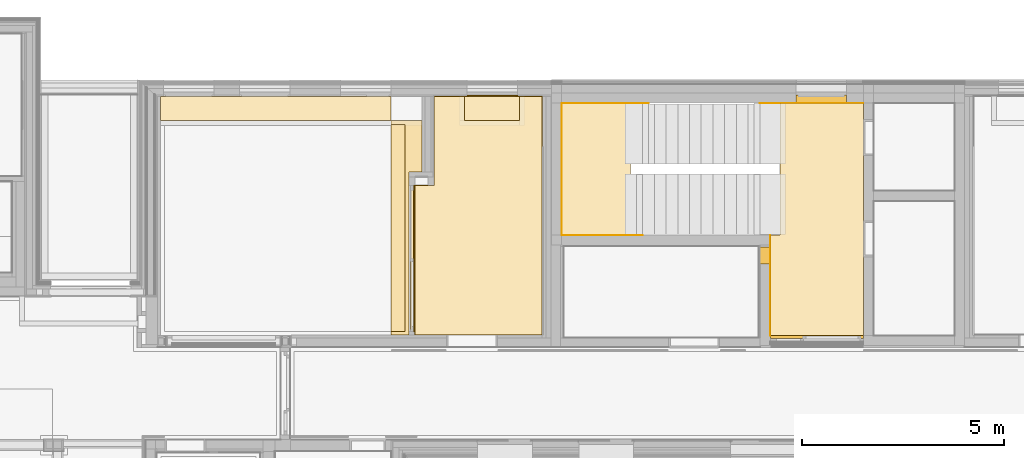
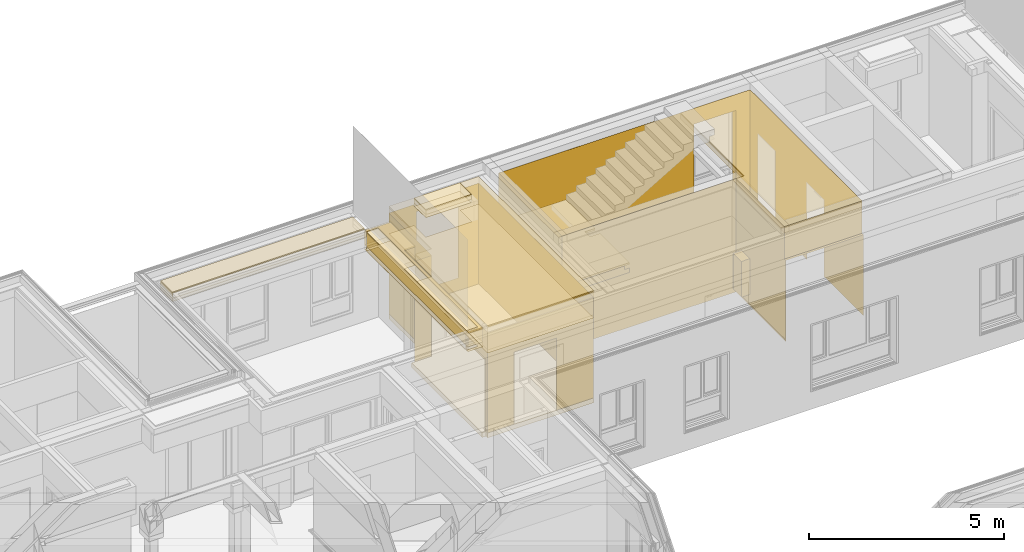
# One storey, part 180 of 222: 27 coverings.
"""IFC4 building model written with IfcOpenShell, lengths in metres."""

from ifc_helpers import new_model, entity, si_unit, converted_unit, derived_unit, frame, frame_2d, origin, origin_with_axes, place, context, subcontext, project, spatial, polyline, rectangle, outline, extrude, material, layer, layer_set, layer_usage, element, save


model = new_model("IFC4")

# Units and contexts
model_context = context("Model", 3, precision=1e-05, world=origin())
body_context = subcontext(model_context, "Body", "Model", "MODEL_VIEW")
ifc_project = project(units=[si_unit("LENGTHUNIT", "METRE"), si_unit("AREAUNIT", "SQUARE_METRE"), si_unit("VOLUMEUNIT", "CUBIC_METRE"), si_unit("MASSUNIT", "GRAM", prefix="KILO"), converted_unit("PLANEANGLEUNIT", "DEGREE", entity("IfcPlaneAngleMeasure", 0.0174532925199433), si_unit("PLANEANGLEUNIT", "RADIAN"), dimensions=[0, 0, 0, 0, 0, 0, 0]), derived_unit("THERMALTRANSMITTANCEUNIT", [(si_unit("POWERUNIT", "WATT"), 1), (si_unit("THERMODYNAMICTEMPERATUREUNIT", "KELVIN"), -1), (si_unit("LENGTHUNIT", "METRE"), -2)]), derived_unit("VOLUMETRICFLOWRATEUNIT", [(si_unit("LENGTHUNIT", "METRE"), 3), (converted_unit("TIMEUNIT", "hour", entity("IfcTimeMeasure", 3600.0), si_unit("TIMEUNIT", "SECOND"), dimensions=[0, 0, 1, 0, 0, 0, 0]), -1), (si_unit("LENGTHUNIT", "METRE"), -1)])], contexts=[model_context])

# Site, building, storey, space
site_placement = place(None, origin())
site = spatial("IfcSite", under=ifc_project, at=site_placement, Name="Psychiatrie Neubau Wunstorf", CompositionType="ELEMENT")
building_placement = place(site_placement, origin())
building = spatial("IfcBuilding", under=site, at=building_placement, Name="Neubau H2 Stationsgebäude", CompositionType="ELEMENT")
storey_placement = place(building_placement, frame((0.0, 0.0, 3.6)))
storey = spatial("IfcBuildingStorey", under=building, at=storey_placement, Name="H2 Ebene +1", CompositionType="ELEMENT", Elevation=3.6)
space_1_placement = place(storey_placement, frame((48.15, 23.1549914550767, 0.0)))
space_1 = spatial("IfcSpace", under=storey, at=space_1_placement, Name="WUN-H2-E01-T03", CompositionType="ELEMENT")

# Coverings
ifc_material_1 = material(Name="03")
ifc_layer_1 = layer(ifc_material_1, 0.001)
ifc_layer_set_1 = layer_set([ifc_layer_1])
ifc_layer_usage_1 = layer_usage(ifc_layer_set_1, "AXIS3", "POSITIVE", 0.0)
covering_1_placement = place(space_1_placement, frame((0.0, -0.0705, 0.0)))
element("IfcCovering", 1, at=covering_1_placement, inside=space_1, material=ifc_layer_usage_1, Name="Sichtbetonklasse SB3", PredefinedType="CLADDING", context=body_context, shape_type="SweptSolid", body=[
    extrude(outline(polyline([(2.145, 0.25), (2.145, 0.0), (0.15, 0.0), (0.15, 0.11), (0.0, 0.11), (0.0, 0.25), (2.145, 0.25)])), frame((2.145, 5.81050823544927, 1.965), z_axis=(9.04507573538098e-12, -1.0, 2.71352272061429e-12), x_axis=(-1.0, -9.04507573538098e-12, 0.0)), (0.0, 0.0, 1.0), 0.001),
    extrude(rectangle(XDim=0.049999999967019, YDim=2.55535335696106, at=frame_2d((1.27767667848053, 0.0250000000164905), x_axis=(0.0, 1.0))), frame((7.45000000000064, 5.81050732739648, 0.049999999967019), z_axis=(7.10690759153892e-07, -0.999999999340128, -3.63213203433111e-05), x_axis=(-0.999999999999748, -7.10690759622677e-07, 0.0)), (0.0, 0.0, 1.0), 0.001),
    extrude(rectangle(XDim=0.25, YDim=3.25999969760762, at=frame_2d((-1.62999984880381, -0.125), x_axis=(0.0, -1.0))), frame((0.0, 2.55050853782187, 1.715), z_axis=(1.0, 0.0, 0.0), x_axis=(0.0, -1.0, 0.0)), (0.0, 0.0, 1.0), 0.001),
    extrude(outline(polyline([(0.0, 0.25), (1.995, 0.25), (1.995, 0.11), (1.845, 0.11), (1.845, 0.0), (0.0, 0.0), (0.0, 0.25)])), frame((0.0, 2.55050853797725, 1.965), z_axis=(-2.27191305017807e-11, 1.0, -1.18879285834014e-09), x_axis=(1.0, 2.27191305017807e-11, 0.0)), (0.0, 0.0, 1.0), 0.001),
    extrude(rectangle(XDim=0.0499999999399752, YDim=2.47999999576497, at=frame_2d((1.23999999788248, 0.0250000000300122), x_axis=(0.0, 1.0))), frame((5.15000122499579, 2.55050853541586, 0.0499999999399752), z_axis=(0.99999999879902, -9.87899820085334e-07, -4.89998311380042e-05), x_axis=(-9.878998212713e-07, -0.999999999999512, 0.0)), (0.0, 0.0, 1.0), 0.001),
])
ifc_material_2 = material(Name="47")
ifc_layer_2 = layer(ifc_material_2, 0.001)
ifc_layer_set_2 = layer_set([ifc_layer_2])
ifc_layer_usage_2 = layer_usage(ifc_layer_set_2, "AXIS3", "POSITIVE", 0.0)
covering_2_placement = place(space_1_placement, frame((0.0, -0.0705, 0.0)))
element("IfcCovering", 2, at=covering_2_placement, inside=space_1, material=ifc_layer_usage_2, Name="Sichtbetonklasse SB3", PredefinedType="CLADDING", context=body_context, shape_type="SweptSolid", body=[
    extrude(rectangle(XDim=1.02, YDim=2.30000489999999, at=frame_2d((-1.15000245, -0.51), x_axis=(0.0, -1.0))), frame((7.45000000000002, 0.0705, 2.53), z_axis=(0.0, 1.0, 0.0), x_axis=(1.0, 0.0, 0.0)), (0.0, 0.0, 1.0), 0.001),
    extrude(outline(polyline([(5.74000823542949, 3.55), (5.74000823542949, 0.0), (0.0, 0.0), (0.0, 3.55), (1.94500838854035, 3.55), (1.94500838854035, 1.14), (2.83000838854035, 1.14), (2.83000838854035, 3.55), (4.44500823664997, 3.55), (4.44500823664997, 1.14), (5.33000823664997, 1.14), (5.33000823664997, 3.55), (5.74000823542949, 3.55)])), frame((7.45000000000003, 0.0705, 3.55), z_axis=(-1.0, -4.03495209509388e-15, 5.41978774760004e-17), x_axis=(-4.03495209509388e-15, 1.0, 0.0)), (0.0, 0.0, 1.0), 0.001),
    extrude(outline(polyline([(7.45, 3.55), (7.45, 0.0), (0.0, 0.0), (0.0, 3.55), (7.45, 3.55)]), holes=[polyline([(1.66249999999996, 3.0), (0.412499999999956, 3.0), (0.412499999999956, 0.5), (1.66249999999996, 0.5), (1.66249999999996, 3.0)])]), frame((7.45, 5.80950823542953, 3.55), z_axis=(1.44965384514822e-15, -1.0, 0.0), x_axis=(-1.0, -1.44965384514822e-15, 0.0)), (0.0, 0.0, 1.0), 0.001),
    extrude(rectangle(XDim=0.049999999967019, YDim=2.55535335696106, at=frame_2d((1.27767667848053, 0.0250000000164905), x_axis=(0.0, 1.0))), frame((7.45000000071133, 5.80950732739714, 0.0499999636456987), z_axis=(7.10690759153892e-07, -0.999999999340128, -3.63213203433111e-05), x_axis=(-0.999999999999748, -7.10690759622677e-07, 0.0)), (0.0, 0.0, 1.0), 0.001),
    extrude(rectangle(XDim=3.55, YDim=3.25999969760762, at=frame_2d((-1.62999984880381, -1.775), x_axis=(0.0, -1.0))), frame((0.001, 2.55050853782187, 0.0), z_axis=(1.0, 0.0, 0.0), x_axis=(0.0, -1.0, 0.0)), (0.0, 0.0, 1.0), 0.001),
    extrude(rectangle(XDim=3.55, YDim=5.15000000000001, at=frame_2d((-2.57500000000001, -1.775), x_axis=(0.0, -1.0))), frame((5.15000000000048, 2.55150853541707, 0.0), z_axis=(4.66951886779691e-10, 1.0, 0.0), x_axis=(1.0, -4.66951886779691e-10, 0.0)), (0.0, 0.0, 1.0), 0.001),
    extrude(outline(polyline([(2.48000853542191, 0.0), (0.0, 0.0), (0.0, 3.55), (2.48000853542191, 3.55), (2.48000853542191, 0.0)]), holes=[polyline([(0.709449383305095, 3.2), (0.289449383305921, 3.2), (0.289449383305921, 2.08), (0.709449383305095, 2.08), (0.709449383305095, 3.2)])]), frame((5.15100050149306, 2.55050853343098, 3.55), z_axis=(0.99999999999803, -1.98509805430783e-06, 2.3486988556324e-23), x_axis=(-1.98509805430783e-06, -0.99999999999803, 0.0)), (0.0, 0.0, 1.0), 0.001),
    extrude(outline(polyline([(0.0, 0.0), (0.0, 0.0500000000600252), (2.4800085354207, 0.0500000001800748), (2.47999999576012, 0.0), (0.0, 0.0)])), frame((5.15100122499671, 2.55050853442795, 0.0499999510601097), z_axis=(0.999999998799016, -9.87901521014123e-07, -4.8999915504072e-05), x_axis=(-9.87901522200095e-07, -0.999999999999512, 0.0)), (0.0, 0.0, 1.0), 0.001),
    extrude(rectangle(XDim=2.53, YDim=0.0705, at=frame_2d((-0.03525, -1.265), x_axis=(0.0, -1.0))), frame((7.44999510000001, 0.0705, 0.0), z_axis=(-1.0, 0.0, 0.0), x_axis=(0.0, 1.0, 0.0)), (0.0, 0.0, 1.0), 0.001),
    extrude(rectangle(XDim=2.2999951, YDim=0.0705, at=frame_2d((1.14999755, -0.03525), x_axis=(1.0, 0.0))), frame((5.15000000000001, 0.0, 2.53), z_axis=(0.0, 0.0, -1.0), x_axis=(1.0, 0.0, 0.0)), (0.0, 0.0, 1.0), 0.001),
    extrude(rectangle(XDim=2.53, YDim=0.0705, at=frame_2d((-0.03525, -1.265), x_axis=(0.0, -1.0))), frame((5.15000000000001, 0.0, 0.0), z_axis=(1.0, 0.0, 0.0), x_axis=(0.0, -1.0, 0.0)), (0.0, 0.0, 1.0), 0.001),
    extrude(rectangle(XDim=0.194999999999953, YDim=2.5, at=frame_2d((0.0974999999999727, -1.25), x_axis=(1.0, 0.0))), frame((7.03650000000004, 5.81050823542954, 0.55), z_axis=(-1.0, 0.0, 0.0), x_axis=(0.0, 1.0, 0.0)), (0.0, 0.0, 1.0), 0.001),
    extrude(rectangle(XDim=1.25, YDim=0.194999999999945, at=frame_2d((0.625, -0.0974999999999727), x_axis=(1.0, 0.0))), frame((5.78750000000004, 5.81050823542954, 3.049), z_axis=(0.0, 0.0, -1.0), x_axis=(1.0, 0.0, 0.0)), (0.0, 0.0, 1.0), 0.001),
    extrude(rectangle(XDim=2.5, YDim=0.194999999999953, at=frame_2d((-0.0974999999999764, -1.25), x_axis=(0.0, -1.0))), frame((5.78850000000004, 5.81050823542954, 0.55), z_axis=(1.0, 1.8656301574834e-14, -1.4551915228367e-15), x_axis=(1.8656301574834e-14, -1.0, 0.0)), (0.0, 0.0, 1.0), 0.001),
    extrude(rectangle(XDim=1.12, YDim=0.42, at=frame_2d((-0.21, -0.56), x_axis=(0.0, -1.0))), frame((4.90100000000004, 1.84105915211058, 0.35), z_axis=(1.0, 0.0, 0.0), x_axis=(0.0, -1.0, 0.0)), (0.0, 0.0, 1.0), 0.001),
    extrude(rectangle(XDim=0.42, YDim=0.25, at=frame_2d((0.125, 0.21), x_axis=(0.0, 1.0))), frame((4.90000000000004, 2.26105915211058, 1.469), z_axis=(0.0, 0.0, -1.0), x_axis=(1.0, 0.0, 0.0)), (0.0, 0.0, 1.0), 0.001),
    extrude(rectangle(XDim=1.12, YDim=0.25, at=frame_2d((-0.125, -0.56), x_axis=(0.0, -1.0))), frame((4.90000000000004, 2.26005915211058, 0.35), z_axis=(0.0, -1.0, 0.0), x_axis=(-1.0, 0.0, 0.0)), (0.0, 0.0, 1.0), 0.001),
    extrude(rectangle(XDim=1.12, YDim=0.25, at=frame_2d((-0.125, -0.56), x_axis=(0.0, -1.0))), frame((5.15000000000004, 1.84205915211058, 0.35), z_axis=(0.0, 1.0, 0.0), x_axis=(1.0, 0.0, 0.0)), (0.0, 0.0, 1.0), 0.001),
])
ifc_material_3 = material()
ifc_layer_3 = layer(ifc_material_3, 0.036)
ifc_layer_set_3 = layer_set([ifc_layer_3])
ifc_layer_usage_3 = layer_usage(ifc_layer_set_3, "AXIS3", "POSITIVE", 0.0)
covering_3_placement = place(space_1_placement, frame((5.14999510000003, 0.0, 3.55)))
element("IfcCovering", 3, at=covering_3_placement, inside=space_1, material=ifc_layer_usage_3, Name="Gipsfaserplatten 2-lagig (BSK)", PredefinedType="CEILING", context=body_context, shape_type="SweptSolid", body=[
    extrude(outline(polyline([(2.30000489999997, 0.0), (2.30000489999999, 5.74000823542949), (0.0, 5.74000823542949), (4.89999998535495e-06, 3.25999969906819), (0.2400049, 3.25999969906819), (0.2400049, 0.0), (2.30000489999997, 0.0)])), frame((0.0, 5.74000823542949, 0.0), z_axis=(0.0, 0.0, -1.0), x_axis=(1.0, 0.0, 0.0)), (0.0, 0.0, 1.0), 0.036),
])
ifc_material_4 = material(Name="Installationshöhe")
ifc_layer_4 = layer(ifc_material_4, 0.164)
ifc_layer_set_4 = layer_set([ifc_layer_4])
ifc_layer_usage_4 = layer_usage(ifc_layer_set_4, "AXIS3", "POSITIVE", 0.0)
covering_4_placement = place(space_1_placement, frame((5.14999510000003, 0.0, 3.514)))
element("IfcCovering", 4, at=covering_4_placement, inside=space_1, material=ifc_layer_usage_4, Name="Gipsfaserplatten 2-lagig (BSK)", PredefinedType="CEILING", context=body_context, shape_type="SweptSolid", body=[
    extrude(outline(polyline([(2.30000489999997, 0.0), (2.30000489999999, 5.74000823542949), (0.0, 5.74000823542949), (4.89999998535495e-06, 3.25999969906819), (0.2400049, 3.25999969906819), (0.2400049, 0.0), (2.30000489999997, 0.0)])), frame((0.0, 5.74000823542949, 0.0), z_axis=(0.0, 0.0, -1.0), x_axis=(1.0, 0.0, 0.0)), (0.0, 0.0, 1.0), 0.164),
])
ifc_material_5 = material(Name="Fl12")
ifc_layer_5 = layer(ifc_material_5, 0.06)
ifc_layer_set_5 = layer_set([ifc_layer_5])
ifc_layer_usage_5 = layer_usage(ifc_layer_set_5, "AXIS3", "POSITIVE", 0.0)
covering_5_placement = place(space_1_placement, frame((0.0, 2.48000853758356, 1.965)))
element("IfcCovering", 5, at=covering_5_placement, inside=space_1, material=ifc_layer_usage_5, Name="Fliesen Großformat", PredefinedType="FLOORING", context=body_context, shape_type="SweptSolid", body=[
    extrude(outline(polyline([(0.0, 0.0), (1.995, 0.0), (1.995, 1.50509006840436), (1.7, 1.50509006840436), (1.7, 1.75999969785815), (1.995, 1.75999969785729), (1.995, 3.25999969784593), (0.0, 3.25999969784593), (0.0, 0.0)])), origin_with_axes(), (0.0, 0.0, 1.0), 0.06),
])

# Space
space_2_placement = place(storey_placement, frame((44.525, 23.1709999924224, 0.0)))
space_2 = spatial("IfcSpace", under=storey, at=space_2_placement, Name="WUN-H2-E01-048", CompositionType="ELEMENT")

# Coverings
ifc_material_6 = material()
ifc_layer_6 = layer(ifc_material_6, 0.036)
ifc_layer_set_6 = layer_set([ifc_layer_6])
ifc_layer_usage_6 = layer_usage(ifc_layer_set_6, "AXIS3", "POSITIVE", 0.0)
covering_6_placement = place(space_2_placement, frame((0.0, 0.0, 3.51)))
element("IfcCovering", 6, at=covering_6_placement, inside=space_2, material=ifc_layer_usage_6, Name="Gipsfaserplatten 2-lagig (BSK)", PredefinedType="CEILING", context=body_context, shape_type="SweptSolid", body=[
    extrude(outline(polyline([(3.13899999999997, 5.89299992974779), (0.0, 5.89299992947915), (0.0, 2.20000023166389), (0.475000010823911, 2.20000023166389), (0.475000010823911, 1.49044833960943e-07), (1.22499978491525, 1.49044833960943e-07), (1.22499985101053, 0.600000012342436), (2.57799982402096, 0.600000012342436), (2.57799975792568, 0.0), (3.139, 0.0), (3.13899999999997, 5.89299992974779)])), frame((0.0, 5.89299992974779, 0.0), z_axis=(0.0, 0.0, -1.0), x_axis=(1.0, 0.0, 0.0)), (0.0, 0.0, 1.0), 0.036),
])
ifc_material_7 = material(Name="Installationshöhe")
ifc_layer_7 = layer(ifc_material_7, 0.724)
ifc_layer_set_7 = layer_set([ifc_layer_7])
ifc_layer_usage_7 = layer_usage(ifc_layer_set_7, "AXIS3", "POSITIVE", 0.0)
covering_7_placement = place(space_2_placement, frame((0.0, 0.0, 3.474)))
element("IfcCovering", 7, at=covering_7_placement, inside=space_2, material=ifc_layer_usage_7, Name="Gipsfaserplatten 2-lagig (BSK)", PredefinedType="CEILING", context=body_context, shape_type="SweptSolid", body=[
    extrude(outline(polyline([(3.13899999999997, 5.89299992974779), (0.0, 5.89299992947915), (0.0, 2.20000023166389), (0.475000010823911, 2.20000023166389), (0.475000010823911, 1.49044833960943e-07), (1.22499978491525, 1.49044833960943e-07), (1.22499985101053, 0.600000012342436), (2.57799982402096, 0.600000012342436), (2.57799975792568, 0.0), (3.139, 0.0), (3.13899999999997, 5.89299992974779)])), frame((0.0, 5.89299992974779, 0.0), z_axis=(0.0, 0.0, -1.0), x_axis=(1.0, 0.0, 0.0)), (0.0, 0.0, 1.0), 0.724),
])
ifc_material_8 = material(Name="A1")
ifc_layer_8 = layer(ifc_material_8, 0.1)
ifc_layer_set_8 = layer_set([ifc_layer_8])
ifc_layer_usage_8 = layer_usage(ifc_layer_set_8, "AXIS3", "POSITIVE", 0.0)
covering_8_placement = place(space_2_placement, frame((0.0, 0.0, 2.75)))
element("IfcCovering", 8, at=covering_8_placement, inside=space_2, material=ifc_layer_usage_8, Name="Gipsfaserplatten 2-lagig (BSK)", PredefinedType="CEILING", context=body_context, shape_type="SweptSolid", body=[
    extrude(outline(polyline([(3.13899999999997, 5.89299992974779), (0.0, 5.89299992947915), (0.0, 2.20000023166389), (0.475000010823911, 2.20000023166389), (0.475000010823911, 1.49044833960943e-07), (1.22499978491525, 1.49044833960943e-07), (1.22499985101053, 0.600000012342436), (2.57799982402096, 0.600000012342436), (2.57799975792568, 0.0), (3.139, 0.0), (3.13899999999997, 5.89299992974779)])), frame((0.0, 5.89299992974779, 0.0), z_axis=(0.0, 0.0, -1.0), x_axis=(1.0, 0.0, 0.0)), (0.0, 0.0, 1.0), 0.1),
])
ifc_material_9 = material(Name="D1")
ifc_layer_9 = layer(ifc_material_9, 0.001)
ifc_layer_set_9 = layer_set([ifc_layer_9])
ifc_layer_usage_9 = layer_usage(ifc_layer_set_9, "AXIS3", "POSITIVE", 0.0)
covering_9_placement = place(space_2_placement, frame((0.0, 0.0, 2.65)))
element("IfcCovering", 9, at=covering_9_placement, inside=space_2, material=ifc_layer_usage_9, Name="Gipsfaserplatten 2-lagig (BSK)", PredefinedType="CEILING", context=body_context, shape_type="SweptSolid", body=[
    extrude(outline(polyline([(3.13899999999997, 5.89299992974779), (0.0, 5.89299992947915), (0.0, 2.20000023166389), (0.475000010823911, 2.20000023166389), (0.475000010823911, 1.49044833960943e-07), (1.22499978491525, 1.49044833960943e-07), (1.22499985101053, 0.600000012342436), (2.57799982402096, 0.600000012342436), (2.57799975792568, 0.0), (3.139, 0.0), (3.13899999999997, 5.89299992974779)])), frame((0.0, 5.89299992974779, 0.0), z_axis=(0.0, 0.0, -1.0), x_axis=(1.0, 0.0, 0.0)), (0.0, 0.0, 1.0), 0.001),
])
ifc_material_10 = material(Name="Ku1")
ifc_layer_10 = layer(ifc_material_10, 0.15)
ifc_layer_set_10 = layer_set([ifc_layer_10])
ifc_layer_usage_10 = layer_usage(ifc_layer_set_10, "AXIS3", "POSITIVE", 0.0)
covering_10_placement = place(space_2_placement, frame((-0.11499999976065, 0.0, 0.0)))
element("IfcCovering", 10, at=covering_10_placement, inside=space_2, material=ifc_layer_usage_10, Name="PVC Bahnenware Holzoptik", PredefinedType="FLOORING", context=body_context, shape_type="SweptSolid", body=[
    extrude(rectangle(XDim=0.114999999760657, YDim=3.61, at=frame_2d((0.0574999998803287, 1.805), x_axis=(1.0, -3.16345983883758e-14))), frame((0.0, 0.082999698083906, 0.0), z_axis=(0.0, 0.0, 1.0), x_axis=(1.0, 0.0, 0.0)), (0.0, 0.0, 1.0), 0.15),
    extrude(outline(polyline([(0.475000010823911, 3.6929996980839), (0.0, 3.6929996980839), (0.0, 0.0), (3.13899999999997, 0.0), (3.13899999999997, 5.89299969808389), (0.475000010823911, 5.89299969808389), (0.475000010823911, 3.6929996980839)])), frame((0.11499999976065, 0.0, 0.0), z_axis=(0.0, 0.0, 1.0), x_axis=(1.0, 0.0, 0.0)), (0.0, 0.0, 1.0), 0.15),
])
ifc_material_11 = material()
ifc_layer_11 = layer(ifc_material_11, 0.036)
ifc_layer_set_11 = layer_set([ifc_layer_11])
ifc_layer_usage_11 = layer_usage(ifc_layer_set_11, "AXIS3", "POSITIVE", 0.0)
covering_11_placement = place(space_2_placement, frame((1.22499978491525, 5.29299991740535, 3.51)))
element("IfcCovering", 11, at=covering_11_placement, inside=space_2, material=ifc_layer_usage_11, Name="Gipsfaserplatten 2-lagig (BSK)", PredefinedType="CEILING", context=body_context, shape_type="SweptSolid", body=[
    extrude(rectangle(XDim=1.35299997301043, YDim=0.59999978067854, at=frame_2d((0.676500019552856, 0.299999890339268), x_axis=(1.0, 0.0))), frame((0.0, 0.59999978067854, 0.0), z_axis=(0.0, 0.0, -1.0), x_axis=(1.0, 0.0, 0.0)), (0.0, 0.0, 1.0), 0.036),
])
ifc_material_12 = material(Name="Installationshöhe")
ifc_layer_12 = layer(ifc_material_12, 0.124)
ifc_layer_set_12 = layer_set([ifc_layer_12])
ifc_layer_usage_12 = layer_usage(ifc_layer_set_12, "AXIS3", "POSITIVE", 0.0)
covering_12_placement = place(space_2_placement, frame((1.22499978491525, 5.29299991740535, 3.474)))
element("IfcCovering", 12, at=covering_12_placement, inside=space_2, material=ifc_layer_usage_12, Name="Gipsfaserplatten 2-lagig (BSK)", PredefinedType="CEILING", context=body_context, shape_type="SweptSolid", body=[
    extrude(rectangle(XDim=1.35299997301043, YDim=0.59999978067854, at=frame_2d((0.676500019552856, 0.299999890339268), x_axis=(1.0, 0.0))), frame((0.0, 0.59999978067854, 0.0), z_axis=(0.0, 0.0, -1.0), x_axis=(1.0, 0.0, 0.0)), (0.0, 0.0, 1.0), 0.124),
])
ifc_material_13 = material(Name="A1")
ifc_layer_13 = layer(ifc_material_13, 0.1)
ifc_layer_set_13 = layer_set([ifc_layer_13])
ifc_layer_usage_13 = layer_usage(ifc_layer_set_13, "AXIS3", "POSITIVE", 0.0)
covering_13_placement = place(space_2_placement, frame((1.22499978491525, 5.29299991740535, 3.35)))
element("IfcCovering", 13, at=covering_13_placement, inside=space_2, material=ifc_layer_usage_13, Name="Gipsfaserplatten 2-lagig (BSK)", PredefinedType="CEILING", context=body_context, shape_type="SweptSolid", body=[
    extrude(rectangle(XDim=1.35299997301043, YDim=0.59999978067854, at=frame_2d((0.676500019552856, 0.299999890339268), x_axis=(1.0, 0.0))), frame((0.0, 0.59999978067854, 0.0), z_axis=(0.0, 0.0, -1.0), x_axis=(1.0, 0.0, 0.0)), (0.0, 0.0, 1.0), 0.1),
])
ifc_material_14 = material(Name="D1")
ifc_layer_14 = layer(ifc_material_14, 0.001)
ifc_layer_set_14 = layer_set([ifc_layer_14])
ifc_layer_usage_14 = layer_usage(ifc_layer_set_14, "AXIS3", "POSITIVE", 0.0)
covering_14_placement = place(space_2_placement, frame((1.22499978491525, 5.29299991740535, 3.25)))
element("IfcCovering", 14, at=covering_14_placement, inside=space_2, material=ifc_layer_usage_14, Name="Gipsfaserplatten 2-lagig (BSK)", PredefinedType="CEILING", context=body_context, shape_type="SweptSolid", body=[
    extrude(rectangle(XDim=1.35299997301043, YDim=0.59999978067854, at=frame_2d((0.676500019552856, 0.299999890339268), x_axis=(1.0, 0.0))), frame((0.0, 0.59999978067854, 0.0), z_axis=(0.0, 0.0, -1.0), x_axis=(1.0, 0.0, 0.0)), (0.0, 0.0, 1.0), 0.001),
])
ifc_material_15 = material(Name="49")
ifc_layer_15 = layer(ifc_material_15, 0.001)
ifc_layer_set_15 = layer_set([ifc_layer_15])
ifc_layer_usage_15 = layer_usage(ifc_layer_set_15, "AXIS3", "POSITIVE", 0.0)
covering_15_placement = place(space_2_placement, frame((-0.0350000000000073, 0.0, 0.15)))
element("IfcCovering", 15, at=covering_15_placement, inside=space_2, material=ifc_layer_usage_15, PredefinedType="CLADDING", context=body_context, shape_type="SweptSolid", body=[
    extrude(outline(polyline([(0.0, 3.15), (2.66399998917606, 3.15), (2.66399998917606, 0.0), (0.0, 0.0), (0.0, 3.15)]), holes=[polyline([(1.85149999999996, 2.75), (0.601499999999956, 2.75), (0.601499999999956, 0.25), (1.85149999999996, 0.25), (1.85149999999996, 2.75)])]), frame((3.17399999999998, 5.89299969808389, 3.15), z_axis=(0.0, -1.0, 0.0), x_axis=(-1.0, 0.0, 0.0)), (0.0, 0.0, 1.0), 0.001),
    extrude(rectangle(XDim=2.19999999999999, YDim=3.15, at=frame_2d((1.09999999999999, -1.575), x_axis=(1.0, 0.0))), frame((0.510000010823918, 5.89299969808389, 0.0), z_axis=(1.0, 0.0, 0.0), x_axis=(0.0, -1.0, 0.0)), (0.0, 0.0, 1.0), 0.001),
    extrude(rectangle(XDim=0.475000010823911, YDim=3.15, at=frame_2d((0.237500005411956, -1.575), x_axis=(1.0, 0.0))), frame((0.510000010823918, 3.6929996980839, 0.0), z_axis=(0.0, -1.0, 0.0), x_axis=(-1.0, 0.0, 0.0)), (0.0, 0.0, 1.0), 0.001),
    extrude(outline(polyline([(3.61, 3.15), (3.6929996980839, 3.15), (3.6929996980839, 0.0), (0.0, 0.0), (0.0, 0.89), (3.61, 0.89), (3.61, 3.15)])), frame((0.0350000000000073, 3.6929996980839, 3.15), z_axis=(1.0, 1.05680127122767e-15, -1.68807636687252e-15), x_axis=(1.05680127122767e-15, -1.0, 0.0)), (0.0, 0.0, 1.0), 0.001),
    extrude(outline(polyline([(0.0, 3.15), (0.780000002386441, 3.15), (0.780000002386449, 0.89), (2.04000000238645, 0.89), (2.04000000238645, 3.15), (3.13899999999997, 3.15), (3.13899999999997, 0.0), (0.0, 0.0), (0.0, 3.15)])), frame((0.0350000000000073, 0.0, 3.15), z_axis=(7.33775968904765e-17, 1.0, -7.78214760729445e-16), x_axis=(1.0, -7.33775968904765e-17, 0.0)), (0.0, 0.0, 1.0), 0.001),
    extrude(rectangle(XDim=5.89299969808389, YDim=3.15, at=frame_2d((2.94649984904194, -1.575), x_axis=(1.0, 0.0))), frame((3.17399999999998, 0.0, 0.0), z_axis=(-1.0, 0.0, 0.0), x_axis=(0.0, 1.0, 0.0)), (0.0, 0.0, 1.0), 0.001),
    extrude(rectangle(XDim=2.5, YDim=0.025, at=frame_2d((-0.0125, -1.25), x_axis=(0.0, -1.0))), frame((1.32250000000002, 5.89299969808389, 0.4), z_axis=(1.0, 0.0, 0.0), x_axis=(0.0, -1.0, 0.0)), (0.0, 0.0, 1.0), 0.001),
    extrude(rectangle(XDim=0.025, YDim=1.25, at=frame_2d((-0.625, -0.0125), x_axis=(0.0, -1.0))), frame((2.57250000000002, 5.89299969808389, 2.9), z_axis=(0.0, 0.0, -1.0), x_axis=(1.0, 0.0, 0.0)), (0.0, 0.0, 1.0), 0.001),
    extrude(rectangle(XDim=0.025, YDim=2.5, at=frame_2d((0.0125, -1.25), x_axis=(1.0, 0.0))), frame((2.57250000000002, 5.89299969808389, 0.4), z_axis=(-1.0, 0.0, 0.0), x_axis=(0.0, 1.0, 0.0)), (0.0, 0.0, 1.0), 0.001),
    extrude(rectangle(XDim=0.0350000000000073, YDim=2.26, at=frame_2d((0.0175000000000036, -1.13), x_axis=(1.0, 0.0))), frame((0.0350000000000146, 3.6929996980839, 0.0), z_axis=(-5.19711258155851e-14, -1.0, 8.04862567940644e-16), x_axis=(-1.0, 5.19711258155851e-14, 0.0)), (0.0, 0.0, 1.0), 0.001),
    extrude(rectangle(XDim=3.61, YDim=0.0350000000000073, at=frame_2d((-0.0175000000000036, -1.805), x_axis=(0.0, -1.0))), frame((0.0350000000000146, 0.0829996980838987, 2.26), z_axis=(0.0, 0.0, -1.0), x_axis=(1.0, 0.0, 0.0)), (0.0, 0.0, 1.0), 0.001),
    extrude(rectangle(XDim=2.26, YDim=0.0350000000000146, at=frame_2d((0.0175000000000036, 1.13), x_axis=(-3.21945027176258e-15, 1.0))), frame((0.0, 0.0829996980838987, 2.26), z_axis=(0.0, 1.0, 0.0), x_axis=(1.0, 0.0, 0.0)), (0.0, 0.0, 1.0), 0.001),
])

# Space
space_3_placement = place(storey_placement, frame((38.244, 23.1539990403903, 0.0)))
space_3 = spatial("IfcSpace", under=storey, at=space_3_placement, Name="WUN-H2-E01-008", CompositionType="ELEMENT")

# Coverings
ifc_material_16 = material()
ifc_layer_16 = layer(ifc_material_16, 0.036)
ifc_layer_set_16 = layer_set([ifc_layer_16])
ifc_layer_usage_16 = layer_usage(ifc_layer_set_16, "AXIS3", "POSITIVE", 0.0)
covering_16_placement = place(space_3_placement, frame((5.69350000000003, 0.01700095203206, 3.51)))
element("IfcCovering", 16, at=covering_16_placement, inside=space_3, material=ifc_layer_usage_16, Name="Gipsfaserplatten 2-lagig (BSK)", PredefinedType="CEILING", context=body_context, shape_type="SweptSolid", body=[
    extrude(outline(polyline([(0.762499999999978, 0.0), (0.762499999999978, 1.275), (0.437499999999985, 1.27499999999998), (0.437499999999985, 5.2929996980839), (0.0, 5.2929996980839), (0.0, 5.20999698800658), (0.337499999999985, 5.20999698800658), (0.337499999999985, 0.1), (0.0, 0.1), (0.0, 0.0), (0.762499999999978, 0.0)])), frame((0.0, 5.29299969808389, 0.0), z_axis=(0.0, 0.0, -1.0), x_axis=(1.0, 0.0, 0.0)), (0.0, 0.0, 1.0), 0.036),
])
ifc_material_17 = material(Name="Installationshöhe")
ifc_layer_17 = layer(ifc_material_17, 0.424)
ifc_layer_set_17 = layer_set([ifc_layer_17])
ifc_layer_usage_17 = layer_usage(ifc_layer_set_17, "AXIS3", "POSITIVE", 0.0)
covering_17_placement = place(space_3_placement, frame((5.69350000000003, 0.01700095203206, 3.474)))
element("IfcCovering", 17, at=covering_17_placement, inside=space_3, material=ifc_layer_usage_17, Name="Gipsfaserplatten 2-lagig (BSK)", PredefinedType="CEILING", context=body_context, shape_type="SweptSolid", body=[
    extrude(outline(polyline([(0.762499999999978, 0.0), (0.762499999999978, 1.275), (0.437499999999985, 1.27499999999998), (0.437499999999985, 5.2929996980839), (0.0, 5.2929996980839), (0.0, 5.20999698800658), (0.337499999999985, 5.20999698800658), (0.337499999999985, 0.1), (0.0, 0.1), (0.0, 0.0), (0.762499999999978, 0.0)])), frame((0.0, 5.29299969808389, 0.0), z_axis=(0.0, 0.0, -1.0), x_axis=(1.0, 0.0, 0.0)), (0.0, 0.0, 1.0), 0.424),
])
ifc_material_18 = material(Name="A1")
ifc_layer_18 = layer(ifc_material_18, 0.15)
ifc_layer_set_18 = layer_set([ifc_layer_18])
ifc_layer_usage_18 = layer_usage(ifc_layer_set_18, "AXIS3", "POSITIVE", 0.0)
covering_18_placement = place(space_3_placement, frame((5.69350000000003, 0.01700095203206, 3.05)))
element("IfcCovering", 18, at=covering_18_placement, inside=space_3, material=ifc_layer_usage_18, Name="Gipsfaserplatten 2-lagig (BSK)", PredefinedType="CEILING", context=body_context, shape_type="SweptSolid", body=[
    extrude(outline(polyline([(0.762499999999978, 0.0), (0.762499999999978, 1.275), (0.437499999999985, 1.27499999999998), (0.437499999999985, 5.2929996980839), (0.0, 5.2929996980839), (0.0, 5.20999698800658), (0.337499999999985, 5.20999698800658), (0.337499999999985, 0.1), (0.0, 0.1), (0.0, 0.0), (0.762499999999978, 0.0)])), frame((0.0, 5.29299969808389, 0.0), z_axis=(0.0, 0.0, -1.0), x_axis=(1.0, 0.0, 0.0)), (0.0, 0.0, 1.0), 0.15),
])
ifc_material_19 = material(Name="D1")
ifc_layer_19 = layer(ifc_material_19, 0.001)
ifc_layer_set_19 = layer_set([ifc_layer_19])
ifc_layer_usage_19 = layer_usage(ifc_layer_set_19, "AXIS3", "POSITIVE", 0.0)
covering_19_placement = place(space_3_placement, frame((5.69350000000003, 0.01700095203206, 2.9)))
element("IfcCovering", 19, at=covering_19_placement, inside=space_3, material=ifc_layer_usage_19, Name="Gipsfaserplatten 2-lagig (BSK)", PredefinedType="CEILING", context=body_context, shape_type="SweptSolid", body=[
    extrude(outline(polyline([(0.762499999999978, 0.0), (0.762499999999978, 1.275), (0.437499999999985, 1.27499999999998), (0.437499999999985, 5.2929996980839), (0.0, 5.2929996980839), (0.0, 5.20999698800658), (0.337499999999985, 5.20999698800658), (0.337499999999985, 0.1), (0.0, 0.1), (0.0, 0.0), (0.762499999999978, 0.0)])), frame((0.0, 5.29299969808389, 0.0), z_axis=(0.0, 0.0, -1.0), x_axis=(1.0, 0.0, 0.0)), (0.0, 0.0, 1.0), 0.001),
])
ifc_material_20 = material()
ifc_layer_20 = layer(ifc_material_20, 0.036)
ifc_layer_set_20 = layer_set([ifc_layer_20])
ifc_layer_usage_20 = layer_usage(ifc_layer_set_20, "AXIS3", "POSITIVE", 0.0)
covering_20_placement = place(space_3_placement, frame((5.69350000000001, 0.100003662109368, 3.51)))
element("IfcCovering", 20, at=covering_20_placement, inside=space_3, material=ifc_layer_usage_20, Name="Gipsfaserplatten 2-lagig (BSK)", PredefinedType="CEILING", context=body_context, shape_type="SweptSolid", body=[
    extrude(rectangle(XDim=5.10999698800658, YDim=0.337499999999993, at=frame_2d((-0.168749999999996, 2.55499849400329), x_axis=(0.0, 1.0))), frame((0.337499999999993, 5.10999698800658, 0.0), z_axis=(0.0, 0.0, -1.0), x_axis=(1.0, 0.0, 0.0)), (0.0, 0.0, 1.0), 0.036),
])
ifc_material_21 = material(Name="Installationshöhe")
ifc_layer_21 = layer(ifc_material_21, 0.424)
ifc_layer_set_21 = layer_set([ifc_layer_21])
ifc_layer_usage_21 = layer_usage(ifc_layer_set_21, "AXIS3", "POSITIVE", 0.0)
covering_21_placement = place(space_3_placement, frame((5.69350000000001, 0.100003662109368, 3.474)))
element("IfcCovering", 21, at=covering_21_placement, inside=space_3, material=ifc_layer_usage_21, Name="Gipsfaserplatten 2-lagig (BSK)", PredefinedType="CEILING", context=body_context, shape_type="SweptSolid", body=[
    extrude(rectangle(XDim=5.10999698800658, YDim=0.337499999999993, at=frame_2d((-0.168749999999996, 2.55499849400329), x_axis=(0.0, 1.0))), frame((0.337499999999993, 5.10999698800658, 0.0), z_axis=(0.0, 0.0, -1.0), x_axis=(1.0, 0.0, 0.0)), (0.0, 0.0, 1.0), 0.424),
])
ifc_material_22 = material(Name="Aa")
ifc_layer_22 = layer(ifc_material_22, 0.15)
ifc_layer_set_22 = layer_set([ifc_layer_22])
ifc_layer_usage_22 = layer_usage(ifc_layer_set_22, "AXIS3", "POSITIVE", 0.0)
covering_22_placement = place(space_3_placement, frame((5.69350000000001, 0.100003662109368, 3.05)))
element("IfcCovering", 22, at=covering_22_placement, inside=space_3, material=ifc_layer_usage_22, Name="Gipsfaserplatten 2-lagig (BSK)", PredefinedType="CEILING", context=body_context, shape_type="SweptSolid", body=[
    extrude(rectangle(XDim=5.10999698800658, YDim=0.337499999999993, at=frame_2d((-0.168749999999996, 2.55499849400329), x_axis=(0.0, 1.0))), frame((0.337499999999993, 5.10999698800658, 0.0), z_axis=(0.0, 0.0, -1.0), x_axis=(1.0, 0.0, 0.0)), (0.0, 0.0, 1.0), 0.15),
])
ifc_material_23 = material(Name="D1")
ifc_layer_23 = layer(ifc_material_23, 0.001)
ifc_layer_set_23 = layer_set([ifc_layer_23])
ifc_layer_usage_23 = layer_usage(ifc_layer_set_23, "AXIS3", "POSITIVE", 0.0)
covering_23_placement = place(space_3_placement, frame((5.69350000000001, 0.100003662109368, 2.9)))
element("IfcCovering", 23, at=covering_23_placement, inside=space_3, material=ifc_layer_usage_23, Name="Gipsfaserplatten 2-lagig (BSK)", PredefinedType="CEILING", context=body_context, shape_type="SweptSolid", body=[
    extrude(rectangle(XDim=5.10999698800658, YDim=0.337499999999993, at=frame_2d((-0.168749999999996, 2.55499849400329), x_axis=(0.0, 1.0))), frame((0.337499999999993, 5.10999698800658, 0.0), z_axis=(0.0, 0.0, -1.0), x_axis=(1.0, 0.0, 0.0)), (0.0, 0.0, 1.0), 0.001),
])
ifc_material_24 = material()
ifc_layer_24 = layer(ifc_material_24, 0.036)
ifc_layer_set_24 = layer_set([ifc_layer_24])
ifc_layer_usage_24 = layer_usage(ifc_layer_set_24, "AXIS3", "POSITIVE", 0.0)
covering_24_placement = place(space_3_placement, frame((0.0, 5.31000065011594, 3.55)))
element("IfcCovering", 24, at=covering_24_placement, inside=space_3, material=ifc_layer_usage_24, Name="Gipsfaserplatten 2-lagig (BSK)", PredefinedType="CEILING", context=body_context, shape_type="SweptSolid", body=[
    extrude(rectangle(XDim=0.599999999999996, YDim=5.69350000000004, at=frame_2d((2.84675000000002, -0.299999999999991), x_axis=(0.0, -1.0))), frame((0.0, 0.0, 0.0), z_axis=(0.0, 0.0, -1.0), x_axis=(1.0, 0.0, 0.0)), (0.0, 0.0, 1.0), 0.036),
])
ifc_material_25 = material(Name="Installationshöhe")
ifc_layer_25 = layer(ifc_material_25, 0.164)
ifc_layer_set_25 = layer_set([ifc_layer_25])
ifc_layer_usage_25 = layer_usage(ifc_layer_set_25, "AXIS3", "POSITIVE", 0.0)
covering_25_placement = place(space_3_placement, frame((0.0, 5.31000065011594, 3.514)))
element("IfcCovering", 25, at=covering_25_placement, inside=space_3, material=ifc_layer_usage_25, Name="Gipsfaserplatten 2-lagig (BSK)", PredefinedType="CEILING", context=body_context, shape_type="SweptSolid", body=[
    extrude(rectangle(XDim=0.599999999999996, YDim=5.69350000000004, at=frame_2d((2.84675000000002, -0.299999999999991), x_axis=(0.0, -1.0))), frame((0.0, 0.0, 0.0), z_axis=(0.0, 0.0, -1.0), x_axis=(1.0, 0.0, 0.0)), (0.0, 0.0, 1.0), 0.164),
])
ifc_material_26 = material(Name="A1")
ifc_layer_26 = layer(ifc_material_26, 0.1)
ifc_layer_set_26 = layer_set([ifc_layer_26])
ifc_layer_usage_26 = layer_usage(ifc_layer_set_26, "AXIS3", "POSITIVE", 0.0)
covering_26_placement = place(space_3_placement, frame((0.0, 5.31000065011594, 3.35)))
element("IfcCovering", 26, at=covering_26_placement, inside=space_3, material=ifc_layer_usage_26, Name="Gipsfaserplatten 2-lagig (BSK)", PredefinedType="CEILING", context=body_context, shape_type="SweptSolid", body=[
    extrude(rectangle(XDim=0.599999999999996, YDim=5.69350000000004, at=frame_2d((2.84675000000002, -0.299999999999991), x_axis=(0.0, -1.0))), frame((0.0, 0.0, 0.0), z_axis=(0.0, 0.0, -1.0), x_axis=(1.0, 0.0, 0.0)), (0.0, 0.0, 1.0), 0.1),
])
ifc_material_27 = material(Name="D1")
ifc_layer_27 = layer(ifc_material_27, 0.001)
ifc_layer_set_27 = layer_set([ifc_layer_27])
ifc_layer_usage_27 = layer_usage(ifc_layer_set_27, "AXIS3", "POSITIVE", 0.0)
covering_27_placement = place(space_3_placement, frame((0.0, 5.31000065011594, 3.25)))
element("IfcCovering", 27, at=covering_27_placement, inside=space_3, material=ifc_layer_usage_27, Name="Gipsfaserplatten 2-lagig (BSK)", PredefinedType="CEILING", context=body_context, shape_type="SweptSolid", body=[
    extrude(rectangle(XDim=0.599999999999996, YDim=5.69350000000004, at=frame_2d((2.84675000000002, -0.299999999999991), x_axis=(0.0, -1.0))), frame((0.0, 0.0, 0.0), z_axis=(0.0, 0.0, -1.0), x_axis=(1.0, 0.0, 0.0)), (0.0, 0.0, 1.0), 0.001),
])

save(model, "model.ifc")
